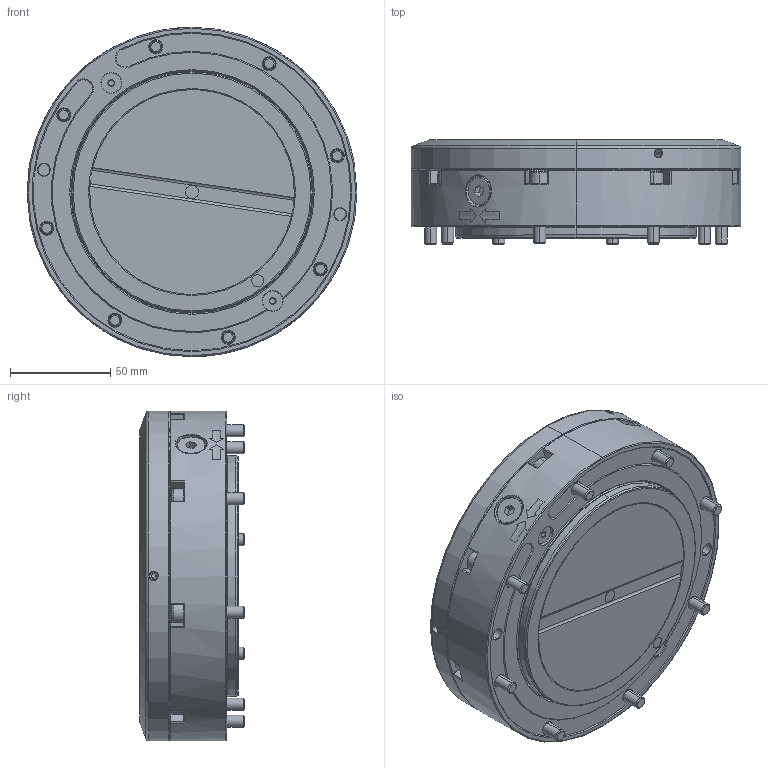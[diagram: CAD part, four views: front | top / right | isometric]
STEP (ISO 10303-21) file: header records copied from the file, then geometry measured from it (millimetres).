
FILE_DESCRIPTION (( 'STEP AP214' ), '1' );
FILE_NAME ('LQFLD-20.STEP', '2019-07-26T01:44:48', ( 'PC' ), ( 'Microsoft' ), 'SwSTEP 2.0', 'SolidWorks 2018', '' );
FILE_SCHEMA (( 'AUTOMOTIVE_DESIGN' ));
Length unit declared in the file: millimetre
Products named in the file (1): LQFLD-20
Bounding box: 164 x 52 x 164 mm (x, y, z)
Volume: 931181.4 mm3; surface area: 155725.3 mm2
Topology: 13 solids, 14 shells, 837 faces, 1931 edges, 1158 vertices
Faces by surface type: plane 344, cylinder 230, cone 166, torus 57, bspline 40
Entity records: 40881 total; most frequent: CARTESIAN_POINT 12625, DIRECTION 4075, ORIENTED_EDGE 3758, EDGE_CURVE 1879, AXIS2_PLACEMENT_3D 1565, VERTEX_POINT 1158, EDGE_LOOP 965, LINE 945
